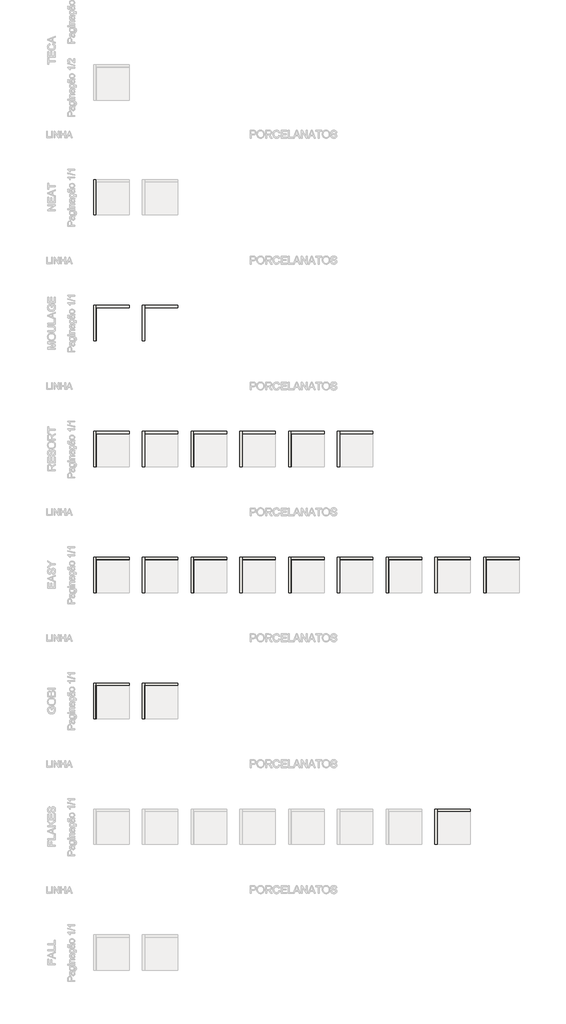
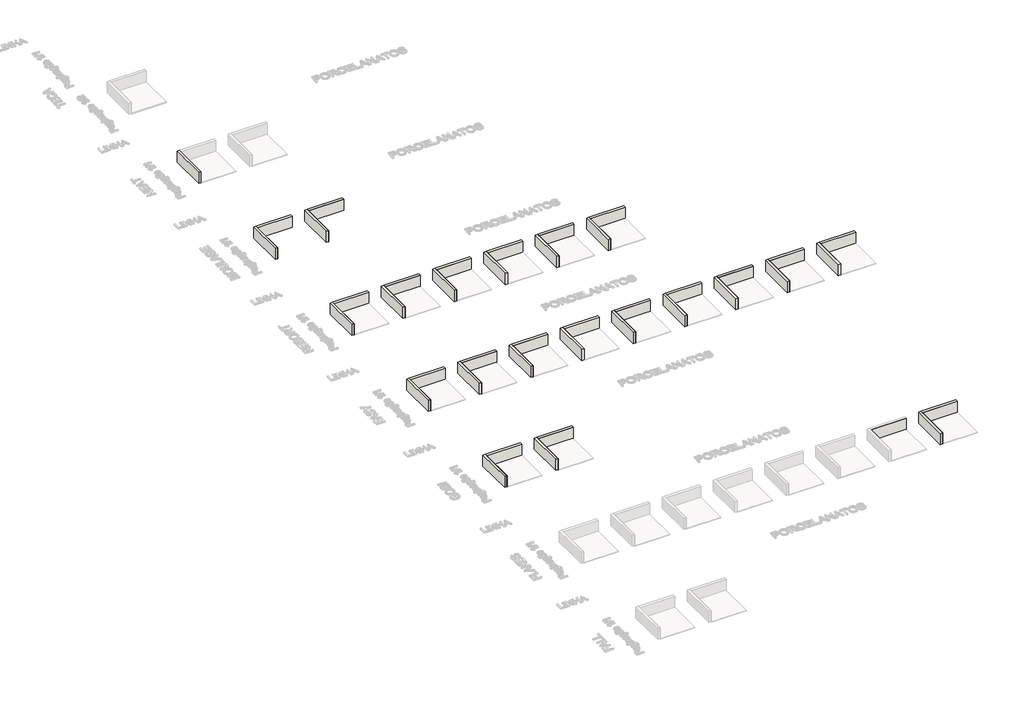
# One storey, part 2 of 17: 82 walls.
"""IFC4 building model written with IfcOpenShell, lengths in millimetres."""

from ifc_helpers import new_model, si_unit, origin, origin_with_axes, place, context, project, spatial, polyline, outline, extrude, faceted_brep, element, save

model = new_model("IFC4")

# Units and contexts
model_context = context("Model", 3, world=origin())
ifc_project = project(units=[si_unit("LENGTHUNIT", "METRE", prefix="MILLI")], contexts=[model_context])

# Site, building, storey
site = spatial("IfcSite", under=ifc_project)
building = spatial("IfcBuilding", under=site)
storey = spatial("IfcBuildingStorey", under=building, Name="Showroom (N.A.)", Elevation=0.0)

# Walls
placement = place(None, origin())
element("IfcWall", 1, ObjectType="Ceusa_Moulage_SBE_MLX_60x60_Pag-1/1", at=placement, inside=storey, context=model_context, shape_type="Brep", body=[
    faceted_brep([(-107054.0516826, -89478.6931337, 0.0), (-110054.0516826, -89478.6931337, 0.0), (-110054.0516826, -89478.6931337, 1000.0), (-107054.0516826, -89478.6931337, 1000.0), (-107054.0516826, -89494.1931337, 0.0), (-107054.0516826, -89494.1931337, 1000.0), (-110038.5516826, -89494.1931337, 1000.0), (-110054.0516826, -89494.1931337, 1000.0), (-110054.0516826, -89494.1931337, 0.0), (-110038.5516826, -89494.1931337, 0.0)], [[[0, 1, 2, 3]], [[4, 5, 6, 7, 8, 9]], [[1, 0, 4, 9, 8]], [[3, 2, 7, 6, 5]], [[0, 3, 5, 4]], [[2, 1, 8, 7]]]),
])
element("IfcWall", 2, ObjectType="Ceusa_Moulage_SBE_MLX_60x60_Pag-1/1", at=placement, inside=storey, context=model_context, shape_type="SweptSolid", body=[
    extrude(outline(polyline([(-110054.0516826, -92478.6931337), (-110054.0516826, -89494.1931337), (-110038.5516826, -89494.1931337), (-110038.5516826, -92478.6931337), (-110054.0516826, -92478.6931337)])), origin_with_axes(), (0.0, 0.0, 1.0), 1000.0),
])
element("IfcWall", 3, ObjectType="Ceusa_Moulage_BL_MLX_60x60_Pag-1/1", at=placement, inside=storey, context=model_context, shape_type="Brep", body=[
    faceted_brep([(-102654.0516826, -89478.6931337, 0.0), (-105654.0516826, -89478.6931337, 0.0), (-105654.0516826, -89478.6931337, 1000.0), (-102654.0516826, -89478.6931337, 1000.0), (-102654.0516826, -89494.1931337, 0.0), (-102654.0516826, -89494.1931337, 1000.0), (-105638.5516826, -89494.1931337, 1000.0), (-105654.0516826, -89494.1931337, 1000.0), (-105654.0516826, -89494.1931337, 0.0), (-105638.5516826, -89494.1931337, 0.0)], [[[0, 1, 2, 3]], [[4, 5, 6, 7, 8, 9]], [[1, 0, 4, 9, 8]], [[3, 2, 7, 6, 5]], [[0, 3, 5, 4]], [[2, 1, 8, 7]]]),
])
element("IfcWall", 4, ObjectType="Ceusa_Moulage_BL_MLX_60x60_Pag-1/1", at=placement, inside=storey, context=model_context, shape_type="SweptSolid", body=[
    extrude(outline(polyline([(-105654.0516826, -92478.6931337), (-105654.0516826, -89494.1931337), (-105638.5516826, -89494.1931337), (-105638.5516826, -92478.6931337), (-105654.0516826, -92478.6931337)])), origin_with_axes(), (0.0, 0.0, 1.0), 1000.0),
])
element("IfcWall", 5, ObjectType="Ceusa_Resort_BE_HARD_100x100_Pag-1/1", at=placement, inside=storey, context=model_context, shape_type="Brep", body=[
    faceted_brep([(-107054.0516826, -100842.0640125, 0.0), (-110054.0516826, -100842.0640125, 0.0), (-110054.0516826, -100842.0640125, 1000.0), (-107054.0516826, -100842.0640125, 1000.0), (-107054.0516826, -100856.0640125, 0.0), (-107054.0516826, -100856.0640125, 1000.0), (-110040.0516826, -100856.0640125, 1000.0), (-110054.0516826, -100856.0640125, 1000.0), (-110054.0516826, -100856.0640125, 0.0), (-110040.0516826, -100856.0640125, 0.0)], [[[0, 1, 2, 3]], [[4, 5, 6, 7, 8, 9]], [[1, 0, 4, 9, 8]], [[3, 2, 7, 6, 5]], [[0, 3, 5, 4]], [[2, 1, 8, 7]]]),
])
element("IfcWall", 6, ObjectType="Ceusa_Resort_BE_HARD_100x100_Pag-1/1", at=placement, inside=storey, context=model_context, shape_type="SweptSolid", body=[
    extrude(outline(polyline([(-110054.0516826, -103842.0640125), (-110054.0516826, -100856.0640125), (-110040.0516826, -100856.0640125), (-110040.0516826, -103842.0640125), (-110054.0516826, -103842.0640125)])), origin_with_axes(), (0.0, 0.0, 1.0), 1000.0),
])
element("IfcWall", 7, ObjectType="Ceusa_Resort_BE_NAT_100x100_Pag-1/1", at=placement, inside=storey, context=model_context, shape_type="Brep", body=[
    faceted_brep([(-102654.0516826, -100842.0640125, 0.0), (-105654.0516826, -100842.0640125, 0.0), (-105654.0516826, -100842.0640125, 1000.0), (-102654.0516826, -100842.0640125, 1000.0), (-102654.0516826, -100856.0640125, 0.0), (-102654.0516826, -100856.0640125, 1000.0), (-105640.0516826, -100856.0640125, 1000.0), (-105654.0516826, -100856.0640125, 1000.0), (-105654.0516826, -100856.0640125, 0.0), (-105640.0516826, -100856.0640125, 0.0)], [[[0, 1, 2, 3]], [[4, 5, 6, 7, 8, 9]], [[1, 0, 4, 9, 8]], [[3, 2, 7, 6, 5]], [[0, 3, 5, 4]], [[2, 1, 8, 7]]]),
])
element("IfcWall", 8, ObjectType="Ceusa_Resort_BE_NAT_100x100_Pag-1/1", at=placement, inside=storey, context=model_context, shape_type="SweptSolid", body=[
    extrude(outline(polyline([(-105654.0516826, -103842.0640125), (-105654.0516826, -100856.0640125), (-105640.0516826, -100856.0640125), (-105640.0516826, -103842.0640125), (-105654.0516826, -103842.0640125)])), origin_with_axes(), (0.0, 0.0, 1.0), 1000.0),
])
element("IfcWall", 9, ObjectType="Ceusa_Easy_MIX_NAT_10X10_Pag-1/1", at=placement, inside=storey, context=model_context, shape_type="Brep", body=[
    faceted_brep([(-107054.0516826, -112205.4348914, 0.0), (-110054.0516826, -112205.4348914, 0.0), (-110054.0516826, -112205.4348914, 1000.0), (-107054.0516826, -112205.4348914, 1000.0), (-107054.0516826, -112217.8348914, 0.0), (-107054.0516826, -112217.8348914, 1000.0), (-110041.6516826, -112217.8348914, 1000.0), (-110054.0516826, -112217.8348914, 1000.0), (-110054.0516826, -112217.8348914, 0.0), (-110041.6516826, -112217.8348914, 0.0)], [[[0, 1, 2, 3]], [[4, 5, 6, 7, 8, 9]], [[1, 0, 4, 9, 8]], [[3, 2, 7, 6, 5]], [[0, 3, 5, 4]], [[2, 1, 8, 7]]]),
])
element("IfcWall", 10, ObjectType="Ceusa_Easy_MIX_NAT_10X10_Pag-1/1", at=placement, inside=storey, context=model_context, shape_type="SweptSolid", body=[
    extrude(outline(polyline([(-110054.0516826, -115205.4348914), (-110054.0516826, -112217.8348914), (-110041.6516826, -112217.8348914), (-110041.6516826, -115205.4348914), (-110054.0516826, -115205.4348914)])), origin_with_axes(), (0.0, 0.0, 1.0), 1000.0),
])
element("IfcWall", 11, ObjectType="Ceusa_Easy_BL_NAT_10X10_Pag-1/1", at=placement, inside=storey, context=model_context, shape_type="Brep", body=[
    faceted_brep([(-102654.0516826, -112205.4348914, 0.0), (-105654.0516826, -112205.4348914, 0.0), (-105654.0516826, -112205.4348914, 1000.0), (-102654.0516826, -112205.4348914, 1000.0), (-102654.0516826, -112217.8348914, 0.0), (-102654.0516826, -112217.8348914, 1000.0), (-105641.6516826, -112217.8348914, 1000.0), (-105654.0516826, -112217.8348914, 1000.0), (-105654.0516826, -112217.8348914, 0.0), (-105641.6516826, -112217.8348914, 0.0)], [[[0, 1, 2, 3]], [[4, 5, 6, 7, 8, 9]], [[1, 0, 4, 9, 8]], [[3, 2, 7, 6, 5]], [[0, 3, 5, 4]], [[2, 1, 8, 7]]]),
])
element("IfcWall", 12, ObjectType="Ceusa_Easy_BL_NAT_10X10_Pag-1/1", at=placement, inside=storey, context=model_context, shape_type="SweptSolid", body=[
    extrude(outline(polyline([(-105654.0516826, -115205.4348914), (-105654.0516826, -112217.8348914), (-105641.6516826, -112217.8348914), (-105641.6516826, -115205.4348914), (-105654.0516826, -115205.4348914)])), origin_with_axes(), (0.0, 0.0, 1.0), 1000.0),
])
element("IfcWall", 13, ObjectType="Ceusa_Easy_CRL_NAT_10X10_Pag-1/1", at=placement, inside=storey, context=model_context, shape_type="Brep", body=[
    faceted_brep([(-98254.0516826, -112205.4348914, 0.0), (-101254.0516826, -112205.4348914, 0.0), (-101254.0516826, -112205.4348914, 1000.0), (-98254.0516826, -112205.4348914, 1000.0), (-98254.0516826, -112217.8348914, 0.0), (-98254.0516826, -112217.8348914, 1000.0), (-101241.6516826, -112217.8348914, 1000.0), (-101254.0516826, -112217.8348914, 1000.0), (-101254.0516826, -112217.8348914, 0.0), (-101241.6516826, -112217.8348914, 0.0)], [[[0, 1, 2, 3]], [[4, 5, 6, 7, 8, 9]], [[1, 0, 4, 9, 8]], [[3, 2, 7, 6, 5]], [[0, 3, 5, 4]], [[2, 1, 8, 7]]]),
])
element("IfcWall", 14, ObjectType="Ceusa_Easy_CRL_NAT_10X10_Pag-1/1", at=placement, inside=storey, context=model_context, shape_type="SweptSolid", body=[
    extrude(outline(polyline([(-101254.0516826, -115205.4348914), (-101254.0516826, -112217.8348914), (-101241.6516826, -112217.8348914), (-101241.6516826, -115205.4348914), (-101254.0516826, -115205.4348914)])), origin_with_axes(), (0.0, 0.0, 1.0), 1000.0),
])
element("IfcWall", 15, ObjectType="Ceusa_Easy_DGR_NAT_10X10_Pag-1/1", at=placement, inside=storey, context=model_context, shape_type="Brep", body=[
    faceted_brep([(-93854.0516826, -112205.4348914, 0.0), (-96854.0516826, -112205.4348914, 0.0), (-96854.0516826, -112205.4348914, 1000.0), (-93854.0516826, -112205.4348914, 1000.0), (-93854.0516826, -112217.8348914, 0.0), (-93854.0516826, -112217.8348914, 1000.0), (-96841.6516826, -112217.8348914, 1000.0), (-96854.0516826, -112217.8348914, 1000.0), (-96854.0516826, -112217.8348914, 0.0), (-96841.6516826, -112217.8348914, 0.0)], [[[0, 1, 2, 3]], [[4, 5, 6, 7, 8, 9]], [[1, 0, 4, 9, 8]], [[3, 2, 7, 6, 5]], [[0, 3, 5, 4]], [[2, 1, 8, 7]]]),
])
element("IfcWall", 16, ObjectType="Ceusa_Easy_DGR_NAT_10X10_Pag-1/1", at=placement, inside=storey, context=model_context, shape_type="SweptSolid", body=[
    extrude(outline(polyline([(-96854.0516826, -115205.4348914), (-96854.0516826, -112217.8348914), (-96841.6516826, -112217.8348914), (-96841.6516826, -115205.4348914), (-96854.0516826, -115205.4348914)])), origin_with_axes(), (0.0, 0.0, 1.0), 1000.0),
])
element("IfcWall", 17, ObjectType="Ceusa_Easy_DPR_NAT_10X10_Pag-1/1", at=placement, inside=storey, context=model_context, shape_type="Brep", body=[
    faceted_brep([(-89454.0516826, -112205.4348914, 0.0), (-92454.0516826, -112205.4348914, 0.0), (-92454.0516826, -112205.4348914, 1000.0), (-89454.0516826, -112205.4348914, 1000.0), (-89454.0516826, -112217.8348914, 0.0), (-89454.0516826, -112217.8348914, 1000.0), (-92441.6516826, -112217.8348914, 1000.0), (-92454.0516826, -112217.8348914, 1000.0), (-92454.0516826, -112217.8348914, 0.0), (-92441.6516826, -112217.8348914, 0.0)], [[[0, 1, 2, 3]], [[4, 5, 6, 7, 8, 9]], [[1, 0, 4, 9, 8]], [[3, 2, 7, 6, 5]], [[0, 3, 5, 4]], [[2, 1, 8, 7]]]),
])
element("IfcWall", 18, ObjectType="Ceusa_Easy_DPR_NAT_10X10_Pag-1/1", at=placement, inside=storey, context=model_context, shape_type="SweptSolid", body=[
    extrude(outline(polyline([(-92454.0516826, -115205.4348914), (-92454.0516826, -112217.8348914), (-92441.6516826, -112217.8348914), (-92441.6516826, -115205.4348914), (-92454.0516826, -115205.4348914)])), origin_with_axes(), (0.0, 0.0, 1.0), 1000.0),
])
element("IfcWall", 19, ObjectType="Ceusa_Easy_OFW_NAT_10X10_Pag-1/1", at=placement, inside=storey, context=model_context, shape_type="Brep", body=[
    faceted_brep([(-85054.0516826, -112205.4348914, 0.0), (-88054.0516826, -112205.4348914, 0.0), (-88054.0516826, -112205.4348914, 1000.0), (-85054.0516826, -112205.4348914, 1000.0), (-85054.0516826, -112217.8348914, 0.0), (-85054.0516826, -112217.8348914, 1000.0), (-88041.6516826, -112217.8348914, 1000.0), (-88054.0516826, -112217.8348914, 1000.0), (-88054.0516826, -112217.8348914, 0.0), (-88041.6516826, -112217.8348914, 0.0)], [[[0, 1, 2, 3]], [[4, 5, 6, 7, 8, 9]], [[1, 0, 4, 9, 8]], [[3, 2, 7, 6, 5]], [[0, 3, 5, 4]], [[2, 1, 8, 7]]]),
])
element("IfcWall", 20, ObjectType="Ceusa_Easy_OFW_NAT_10X10_Pag-1/1", at=placement, inside=storey, context=model_context, shape_type="SweptSolid", body=[
    extrude(outline(polyline([(-88054.0516826, -115205.4348914), (-88054.0516826, -112217.8348914), (-88041.6516826, -112217.8348914), (-88041.6516826, -115205.4348914), (-88054.0516826, -115205.4348914)])), origin_with_axes(), (0.0, 0.0, 1.0), 1000.0),
])
element("IfcWall", 21, ObjectType="Ceusa_Easy_RD_NAT_10X10_Pag-1/1", at=placement, inside=storey, context=model_context, shape_type="Brep", body=[
    faceted_brep([(-80654.0516826, -112205.4348914, 0.0), (-83654.0516826, -112205.4348914, 0.0), (-83654.0516826, -112205.4348914, 1000.0), (-80654.0516826, -112205.4348914, 1000.0), (-80654.0516826, -112217.8348914, 0.0), (-80654.0516826, -112217.8348914, 1000.0), (-83641.6516826, -112217.8348914, 1000.0), (-83654.0516826, -112217.8348914, 1000.0), (-83654.0516826, -112217.8348914, 0.0), (-83641.6516826, -112217.8348914, 0.0)], [[[0, 1, 2, 3]], [[4, 5, 6, 7, 8, 9]], [[1, 0, 4, 9, 8]], [[3, 2, 7, 6, 5]], [[0, 3, 5, 4]], [[2, 1, 8, 7]]]),
])
element("IfcWall", 22, ObjectType="Ceusa_Easy_RD_NAT_10X10_Pag-1/1", at=placement, inside=storey, context=model_context, shape_type="SweptSolid", body=[
    extrude(outline(polyline([(-83654.0516826, -115205.4348914), (-83654.0516826, -112217.8348914), (-83641.6516826, -112217.8348914), (-83641.6516826, -115205.4348914), (-83654.0516826, -115205.4348914)])), origin_with_axes(), (0.0, 0.0, 1.0), 1000.0),
])
element("IfcWall", 23, ObjectType="Ceusa_Easy_SBW_NAT_10X10_Pag-1/1", at=placement, inside=storey, context=model_context, shape_type="Brep", body=[
    faceted_brep([(-76254.0516826, -112205.4348914, 0.0), (-79254.0516826, -112205.4348914, 0.0), (-79254.0516826, -112205.4348914, 1000.0), (-76254.0516826, -112205.4348914, 1000.0), (-76254.0516826, -112217.8348914, 0.0), (-76254.0516826, -112217.8348914, 1000.0), (-79241.6516826, -112217.8348914, 1000.0), (-79254.0516826, -112217.8348914, 1000.0), (-79254.0516826, -112217.8348914, 0.0), (-79241.6516826, -112217.8348914, 0.0)], [[[0, 1, 2, 3]], [[4, 5, 6, 7, 8, 9]], [[1, 0, 4, 9, 8]], [[3, 2, 7, 6, 5]], [[0, 3, 5, 4]], [[2, 1, 8, 7]]]),
])
element("IfcWall", 24, ObjectType="Ceusa_Easy_SBW_NAT_10X10_Pag-1/1", at=placement, inside=storey, context=model_context, shape_type="SweptSolid", body=[
    extrude(outline(polyline([(-79254.0516826, -115205.4348914), (-79254.0516826, -112217.8348914), (-79241.6516826, -112217.8348914), (-79241.6516826, -115205.4348914), (-79254.0516826, -115205.4348914)])), origin_with_axes(), (0.0, 0.0, 1.0), 1000.0),
])
element("IfcWall", 25, ObjectType="Ceusa_Easy_SGN_NAT_10X10_Pag-1/1", at=placement, inside=storey, context=model_context, shape_type="Brep", body=[
    faceted_brep([(-71854.0516826, -112205.4348914, 0.0), (-74854.0516826, -112205.4348914, 0.0), (-74854.0516826, -112205.4348914, 1000.0), (-71854.0516826, -112205.4348914, 1000.0), (-71854.0516826, -112217.8348914, 0.0), (-71854.0516826, -112217.8348914, 1000.0), (-74841.6516826, -112217.8348914, 1000.0), (-74854.0516826, -112217.8348914, 1000.0), (-74854.0516826, -112217.8348914, 0.0), (-74841.6516826, -112217.8348914, 0.0)], [[[0, 1, 2, 3]], [[4, 5, 6, 7, 8, 9]], [[1, 0, 4, 9, 8]], [[3, 2, 7, 6, 5]], [[0, 3, 5, 4]], [[2, 1, 8, 7]]]),
])
element("IfcWall", 26, ObjectType="Ceusa_Easy_SGN_NAT_10X10_Pag-1/1", at=placement, inside=storey, context=model_context, shape_type="SweptSolid", body=[
    extrude(outline(polyline([(-74854.0516826, -115205.4348914), (-74854.0516826, -112217.8348914), (-74841.6516826, -112217.8348914), (-74841.6516826, -115205.4348914), (-74854.0516826, -115205.4348914)])), origin_with_axes(), (0.0, 0.0, 1.0), 1000.0),
])
element("IfcWall", 27, ObjectType="Ceusa_Gobi_BE_NAT_120X120_Pag-1/1", at=placement, inside=storey, context=model_context, shape_type="Brep", body=[
    faceted_brep([(-107054.0516826, -123568.8057702, 0.0), (-110054.0516826, -123568.8057702, 0.0), (-110054.0516826, -123568.8057702, 1000.0), (-107054.0516826, -123568.8057702, 1000.0), (-107054.0516826, -123583.0057702, 0.0), (-107054.0516826, -123583.0057702, 1000.0), (-110039.8516826, -123583.0057702, 1000.0), (-110054.0516826, -123583.0057702, 1000.0), (-110054.0516826, -123583.0057702, 0.0), (-110039.8516826, -123583.0057702, 0.0)], [[[0, 1, 2, 3]], [[4, 5, 6, 7, 8, 9]], [[1, 0, 4, 9, 8]], [[3, 2, 7, 6, 5]], [[0, 3, 5, 4]], [[2, 1, 8, 7]]]),
])
element("IfcWall", 28, ObjectType="Ceusa_Gobi_BE_NAT_120X120_Pag-1/1", at=placement, inside=storey, context=model_context, shape_type="SweptSolid", body=[
    extrude(outline(polyline([(-110054.0516826, -126568.8057702), (-110054.0516826, -123583.0057702), (-110039.8516826, -123583.0057702), (-110039.8516826, -126568.8057702), (-110054.0516826, -126568.8057702)])), origin_with_axes(), (0.0, 0.0, 1.0), 1000.0),
])
element("IfcWall", 29, ObjectType="Ceusa_Gobi_BE_HARD_120X120_Pag-1/1", at=placement, inside=storey, context=model_context, shape_type="Brep", body=[
    faceted_brep([(-102654.0516826, -123568.8057702, 0.0), (-105654.0516826, -123568.8057702, 0.0), (-105654.0516826, -123568.8057702, 1000.0), (-102654.0516826, -123568.8057702, 1000.0), (-102654.0516826, -123583.0057702, 0.0), (-102654.0516826, -123583.0057702, 1000.0), (-105639.8516826, -123583.0057702, 1000.0), (-105654.0516826, -123583.0057702, 1000.0), (-105654.0516826, -123583.0057702, 0.0), (-105639.8516826, -123583.0057702, 0.0)], [[[0, 1, 2, 3]], [[4, 5, 6, 7, 8, 9]], [[1, 0, 4, 9, 8]], [[3, 2, 7, 6, 5]], [[0, 3, 5, 4]], [[2, 1, 8, 7]]]),
])
element("IfcWall", 30, ObjectType="Ceusa_Gobi_BE_HARD_120X120_Pag-1/1", at=placement, inside=storey, context=model_context, shape_type="SweptSolid", body=[
    extrude(outline(polyline([(-105654.0516826, -126568.8057702), (-105654.0516826, -123583.0057702), (-105639.8516826, -123583.0057702), (-105639.8516826, -126568.8057702), (-105654.0516826, -126568.8057702)])), origin_with_axes(), (0.0, 0.0, 1.0), 1000.0),
])
element("IfcWall", 31, ObjectType="Ceusa_Flake_BE_HARD_120X120_Pag-1/1", at=placement, inside=storey, context=model_context, shape_type="Brep", body=[
    faceted_brep([(-80654.0516826, -134932.1766491, 0.0), (-83654.0516826, -134932.1766491, 0.0), (-83654.0516826, -134932.1766491, 1000.0), (-80654.0516826, -134932.1766491, 1000.0), (-80654.0516826, -134946.3766491, 0.0), (-80654.0516826, -134946.3766491, 1000.0), (-83639.8516826, -134946.3766491, 1000.0), (-83654.0516826, -134946.3766491, 1000.0), (-83654.0516826, -134946.3766491, 0.0), (-83639.8516826, -134946.3766491, 0.0)], [[[0, 1, 2, 3]], [[4, 5, 6, 7, 8, 9]], [[1, 0, 4, 9, 8]], [[3, 2, 7, 6, 5]], [[0, 3, 5, 4]], [[2, 1, 8, 7]]]),
])
element("IfcWall", 32, ObjectType="Ceusa_Flake_GR_HARD_120X120_Pag-1/1", at=placement, inside=storey, context=model_context, shape_type="Brep", body=[
    faceted_brep([(-76254.0516826, -134932.1766491, 0.0), (-79254.0516826, -134932.1766491, 0.0), (-79254.0516826, -134932.1766491, 1000.0), (-76254.0516826, -134932.1766491, 1000.0), (-76254.0516826, -134946.3766491, 0.0), (-76254.0516826, -134946.3766491, 1000.0), (-79239.8516826, -134946.3766491, 1000.0), (-79254.0516826, -134946.3766491, 1000.0), (-79254.0516826, -134946.3766491, 0.0), (-79239.8516826, -134946.3766491, 0.0)], [[[0, 1, 2, 3]], [[4, 5, 6, 7, 8, 9]], [[1, 0, 4, 9, 8]], [[3, 2, 7, 6, 5]], [[0, 3, 5, 4]], [[2, 1, 8, 7]]]),
])
element("IfcWall", 33, ObjectType="Ceusa_Flake_GR_HARD_120X120_Pag-1/1", at=placement, inside=storey, context=model_context, shape_type="SweptSolid", body=[
    extrude(outline(polyline([(-79254.0516826, -137932.1766491), (-79254.0516826, -134946.3766491), (-79239.8516826, -134946.3766491), (-79239.8516826, -137932.1766491), (-79254.0516826, -137932.1766491)])), origin_with_axes(), (0.0, 0.0, 1.0), 1000.0),
])
element("IfcWall", 34, ObjectType="Ceusa_Resort_BE_HARD_20x20_Pag-1/1", at=placement, inside=storey, context=model_context, shape_type="Brep", body=[
    faceted_brep([(-98254.0516826, -100842.0640125, 0.0), (-101254.0516826, -100842.0640125, 0.0), (-101254.0516826, -100842.0640125, 1000.0), (-98254.0516826, -100842.0640125, 1000.0), (-98254.0516826, -100854.4640125, 0.0), (-98254.0516826, -100854.4640125, 1000.0), (-101241.6516826, -100854.4640125, 1000.0), (-101254.0516826, -100854.4640125, 1000.0), (-101254.0516826, -100854.4640125, 0.0), (-101241.6516826, -100854.4640125, 0.0)], [[[0, 1, 2, 3]], [[4, 5, 6, 7, 8, 9]], [[1, 0, 4, 9, 8]], [[3, 2, 7, 6, 5]], [[0, 3, 5, 4]], [[2, 1, 8, 7]]]),
])
element("IfcWall", 35, ObjectType="Ceusa_Resort_BE_HARD_20x20_Pag-1/1", at=placement, inside=storey, context=model_context, shape_type="SweptSolid", body=[
    extrude(outline(polyline([(-101254.0516826, -103842.0640125), (-101254.0516826, -100854.4640125), (-101241.6516826, -100854.4640125), (-101241.6516826, -103842.0640125), (-101254.0516826, -103842.0640125)])), origin_with_axes(), (0.0, 0.0, 1.0), 1000.0),
])
element("IfcWall", 36, ObjectType="Ceusa_Resort_BE_NAT_20x20_Pag-1/1", at=placement, inside=storey, context=model_context, shape_type="Brep", body=[
    faceted_brep([(-93854.0516826, -100842.0640125, 0.0), (-96854.0516826, -100842.0640125, 0.0), (-96854.0516826, -100842.0640125, 1000.0), (-93854.0516826, -100842.0640125, 1000.0), (-93854.0516826, -100854.4640125, 0.0), (-93854.0516826, -100854.4640125, 1000.0), (-96841.6516826, -100854.4640125, 1000.0), (-96854.0516826, -100854.4640125, 1000.0), (-96854.0516826, -100854.4640125, 0.0), (-96841.6516826, -100854.4640125, 0.0)], [[[0, 1, 2, 3]], [[4, 5, 6, 7, 8, 9]], [[1, 0, 4, 9, 8]], [[3, 2, 7, 6, 5]], [[0, 3, 5, 4]], [[2, 1, 8, 7]]]),
])
element("IfcWall", 37, ObjectType="Ceusa_Resort_BE_NAT_20x20_Pag-1/1", at=placement, inside=storey, context=model_context, shape_type="SweptSolid", body=[
    extrude(outline(polyline([(-96854.0516826, -103842.0640125), (-96854.0516826, -100854.4640125), (-96841.6516826, -100854.4640125), (-96841.6516826, -103842.0640125), (-96854.0516826, -103842.0640125)])), origin_with_axes(), (0.0, 0.0, 1.0), 1000.0),
])
element("IfcWall", 38, ObjectType="Ceusa_Resort_BL_HARD_20x20_Pag-1/1", at=placement, inside=storey, context=model_context, shape_type="Brep", body=[
    faceted_brep([(-89454.0516826, -100842.0640125, 0.0), (-92454.0516826, -100842.0640125, 0.0), (-92454.0516826, -100842.0640125, 1000.0), (-89454.0516826, -100842.0640125, 1000.0), (-89454.0516826, -100854.4640125, 0.0), (-89454.0516826, -100854.4640125, 1000.0), (-92441.6516826, -100854.4640125, 1000.0), (-92454.0516826, -100854.4640125, 1000.0), (-92454.0516826, -100854.4640125, 0.0), (-92441.6516826, -100854.4640125, 0.0)], [[[0, 1, 2, 3]], [[4, 5, 6, 7, 8, 9]], [[1, 0, 4, 9, 8]], [[3, 2, 7, 6, 5]], [[0, 3, 5, 4]], [[2, 1, 8, 7]]]),
])
element("IfcWall", 39, ObjectType="Ceusa_Resort_BL_HARD_20x20_Pag-1/1", at=placement, inside=storey, context=model_context, shape_type="SweptSolid", body=[
    extrude(outline(polyline([(-92454.0516826, -103842.0640125), (-92454.0516826, -100854.4640125), (-92441.6516826, -100854.4640125), (-92441.6516826, -103842.0640125), (-92454.0516826, -103842.0640125)])), origin_with_axes(), (0.0, 0.0, 1.0), 1000.0),
])
element("IfcWall", 40, ObjectType="Ceusa_Resort_BL_LUX_20x20_Pag-1/1", at=placement, inside=storey, context=model_context, shape_type="Brep", body=[
    faceted_brep([(-85054.0516826, -100842.0640125, 0.0), (-88054.0516826, -100842.0640125, 0.0), (-88054.0516826, -100842.0640125, 1000.0), (-85054.0516826, -100842.0640125, 1000.0), (-85054.0516826, -100854.4640125, 0.0), (-85054.0516826, -100854.4640125, 1000.0), (-88041.6516826, -100854.4640125, 1000.0), (-88054.0516826, -100854.4640125, 1000.0), (-88054.0516826, -100854.4640125, 0.0), (-88041.6516826, -100854.4640125, 0.0)], [[[0, 1, 2, 3]], [[4, 5, 6, 7, 8, 9]], [[1, 0, 4, 9, 8]], [[3, 2, 7, 6, 5]], [[0, 3, 5, 4]], [[2, 1, 8, 7]]]),
])
element("IfcWall", 41, ObjectType="Ceusa_Resort_BL_LUX_20x20_Pag-1/1", at=placement, inside=storey, context=model_context, shape_type="SweptSolid", body=[
    extrude(outline(polyline([(-88054.0516826, -103842.0640125), (-88054.0516826, -100854.4640125), (-88041.6516826, -100854.4640125), (-88041.6516826, -103842.0640125), (-88054.0516826, -103842.0640125)])), origin_with_axes(), (0.0, 0.0, 1.0), 1000.0),
])
element("IfcWall", 42, ObjectType="Wall 1", at=placement, inside=storey, context=model_context, shape_type="Brep", body=[
    faceted_brep([(-110054.0516826, -81115.3222548, 0.0), (-110054.0516826, -78115.3222548, 0.0), (-110054.0516826, -77915.3222548, 0.0), (-110054.0516826, -77915.3222548, 1000.0), (-110054.0516826, -78115.3222548, 1000.0), (-110054.0516826, -81115.3222548, 1000.0), (-110254.0516826, -81115.3222548, 0.0), (-110254.0516826, -81115.3222548, 1000.0), (-110254.0516826, -77915.3222548, 1000.0), (-110254.0516826, -77915.3222548, 0.0)], [[[0, 1, 2, 3, 4, 5]], [[6, 7, 8, 9]], [[2, 1, 0, 6, 9]], [[5, 4, 3, 8, 7]], [[0, 5, 7, 6]], [[3, 2, 9, 8]]]),
])
element("IfcWall", 43, ObjectType="Wall 1", at=placement, inside=storey, context=model_context, shape_type="Brep", body=[
    faceted_brep([(-110054.0516826, -92478.6931337, 0.0), (-110054.0516826, -89478.6931337, 0.0), (-110054.0516826, -89278.6931337, 0.0), (-110054.0516826, -89278.6931337, 1000.0), (-110054.0516826, -89478.6931337, 1000.0), (-110054.0516826, -92478.6931337, 1000.0), (-110254.0516826, -92478.6931337, 0.0), (-110254.0516826, -92478.6931337, 1000.0), (-110254.0516826, -89278.6931337, 1000.0), (-110254.0516826, -89278.6931337, 0.0)], [[[0, 1, 2, 3, 4, 5]], [[6, 7, 8, 9]], [[2, 1, 0, 6, 9]], [[5, 4, 3, 8, 7]], [[0, 5, 7, 6]], [[3, 2, 9, 8]]]),
])
element("IfcWall", 44, ObjectType="Wall 1", at=placement, inside=storey, context=model_context, shape_type="SweptSolid", body=[
    extrude(outline(polyline([(-107054.0516826, -89478.6931337), (-110054.0516826, -89478.6931337), (-110054.0516826, -89278.6931337), (-107054.0516826, -89278.6931337), (-107054.0516826, -89478.6931337)])), origin_with_axes(), (0.0, 0.0, 1.0), 1000.0),
])
element("IfcWall", 45, ObjectType="Wall 1", at=placement, inside=storey, context=model_context, shape_type="Brep", body=[
    faceted_brep([(-105654.0516826, -92478.6931337, 0.0), (-105654.0516826, -89478.6931337, 0.0), (-105654.0516826, -89278.6931337, 0.0), (-105654.0516826, -89278.6931337, 1000.0), (-105654.0516826, -89478.6931337, 1000.0), (-105654.0516826, -92478.6931337, 1000.0), (-105854.0516826, -92478.6931337, 0.0), (-105854.0516826, -92478.6931337, 1000.0), (-105854.0516826, -89278.6931337, 1000.0), (-105854.0516826, -89278.6931337, 0.0)], [[[0, 1, 2, 3, 4, 5]], [[6, 7, 8, 9]], [[2, 1, 0, 6, 9]], [[5, 4, 3, 8, 7]], [[0, 5, 7, 6]], [[3, 2, 9, 8]]]),
])
element("IfcWall", 46, ObjectType="Wall 1", at=placement, inside=storey, context=model_context, shape_type="SweptSolid", body=[
    extrude(outline(polyline([(-102654.0516826, -89478.6931337), (-105654.0516826, -89478.6931337), (-105654.0516826, -89278.6931337), (-102654.0516826, -89278.6931337), (-102654.0516826, -89478.6931337)])), origin_with_axes(), (0.0, 0.0, 1.0), 1000.0),
])
element("IfcWall", 47, ObjectType="Wall 1", at=placement, inside=storey, context=model_context, shape_type="Brep", body=[
    faceted_brep([(-110054.0516826, -103842.0640125, 0.0), (-110054.0516826, -100842.0640125, 0.0), (-110054.0516826, -100642.0640125, 0.0), (-110054.0516826, -100642.0640125, 1000.0), (-110054.0516826, -100842.0640125, 1000.0), (-110054.0516826, -103842.0640125, 1000.0), (-110254.0516826, -103842.0640125, 0.0), (-110254.0516826, -103842.0640125, 1000.0), (-110254.0516826, -100642.0640125, 1000.0), (-110254.0516826, -100642.0640125, 0.0)], [[[0, 1, 2, 3, 4, 5]], [[6, 7, 8, 9]], [[2, 1, 0, 6, 9]], [[5, 4, 3, 8, 7]], [[0, 5, 7, 6]], [[3, 2, 9, 8]]]),
])
element("IfcWall", 48, ObjectType="Wall 1", at=placement, inside=storey, context=model_context, shape_type="SweptSolid", body=[
    extrude(outline(polyline([(-107054.0516826, -100842.0640125), (-110054.0516826, -100842.0640125), (-110054.0516826, -100642.0640125), (-107054.0516826, -100642.0640125), (-107054.0516826, -100842.0640125)])), origin_with_axes(), (0.0, 0.0, 1.0), 1000.0),
])
element("IfcWall", 49, ObjectType="Wall 1", at=placement, inside=storey, context=model_context, shape_type="Brep", body=[
    faceted_brep([(-105654.0516826, -103842.0640125, 0.0), (-105654.0516826, -100842.0640125, 0.0), (-105654.0516826, -100642.0640125, 0.0), (-105654.0516826, -100642.0640125, 1000.0), (-105654.0516826, -100842.0640125, 1000.0), (-105654.0516826, -103842.0640125, 1000.0), (-105854.0516826, -103842.0640125, 0.0), (-105854.0516826, -103842.0640125, 1000.0), (-105854.0516826, -100642.0640125, 1000.0), (-105854.0516826, -100642.0640125, 0.0)], [[[0, 1, 2, 3, 4, 5]], [[6, 7, 8, 9]], [[2, 1, 0, 6, 9]], [[5, 4, 3, 8, 7]], [[0, 5, 7, 6]], [[3, 2, 9, 8]]]),
])
element("IfcWall", 50, ObjectType="Wall 1", at=placement, inside=storey, context=model_context, shape_type="SweptSolid", body=[
    extrude(outline(polyline([(-102654.0516826, -100842.0640125), (-105654.0516826, -100842.0640125), (-105654.0516826, -100642.0640125), (-102654.0516826, -100642.0640125), (-102654.0516826, -100842.0640125)])), origin_with_axes(), (0.0, 0.0, 1.0), 1000.0),
])
element("IfcWall", 51, ObjectType="Wall 1", at=placement, inside=storey, context=model_context, shape_type="Brep", body=[
    faceted_brep([(-110054.0516826, -115205.4348914, 0.0), (-110054.0516826, -112205.4348914, 0.0), (-110054.0516826, -112005.4348914, 0.0), (-110054.0516826, -112005.4348914, 1000.0), (-110054.0516826, -112205.4348914, 1000.0), (-110054.0516826, -115205.4348914, 1000.0), (-110254.0516826, -115205.4348914, 0.0), (-110254.0516826, -115205.4348914, 1000.0), (-110254.0516826, -112005.4348914, 1000.0), (-110254.0516826, -112005.4348914, 0.0)], [[[0, 1, 2, 3, 4, 5]], [[6, 7, 8, 9]], [[2, 1, 0, 6, 9]], [[5, 4, 3, 8, 7]], [[0, 5, 7, 6]], [[3, 2, 9, 8]]]),
])
element("IfcWall", 52, ObjectType="Wall 1", at=placement, inside=storey, context=model_context, shape_type="SweptSolid", body=[
    extrude(outline(polyline([(-107054.0516826, -112205.4348914), (-110054.0516826, -112205.4348914), (-110054.0516826, -112005.4348914), (-107054.0516826, -112005.4348914), (-107054.0516826, -112205.4348914)])), origin_with_axes(), (0.0, 0.0, 1.0), 1000.0),
])
element("IfcWall", 53, ObjectType="Wall 1", at=placement, inside=storey, context=model_context, shape_type="Brep", body=[
    faceted_brep([(-105654.0516826, -115205.4348914, 0.0), (-105654.0516826, -112205.4348914, 0.0), (-105654.0516826, -112005.4348914, 0.0), (-105654.0516826, -112005.4348914, 1000.0), (-105654.0516826, -112205.4348914, 1000.0), (-105654.0516826, -115205.4348914, 1000.0), (-105854.0516826, -115205.4348914, 0.0), (-105854.0516826, -115205.4348914, 1000.0), (-105854.0516826, -112005.4348914, 1000.0), (-105854.0516826, -112005.4348914, 0.0)], [[[0, 1, 2, 3, 4, 5]], [[6, 7, 8, 9]], [[2, 1, 0, 6, 9]], [[5, 4, 3, 8, 7]], [[0, 5, 7, 6]], [[3, 2, 9, 8]]]),
])
element("IfcWall", 54, ObjectType="Wall 1", at=placement, inside=storey, context=model_context, shape_type="SweptSolid", body=[
    extrude(outline(polyline([(-102654.0516826, -112205.4348914), (-105654.0516826, -112205.4348914), (-105654.0516826, -112005.4348914), (-102654.0516826, -112005.4348914), (-102654.0516826, -112205.4348914)])), origin_with_axes(), (0.0, 0.0, 1.0), 1000.0),
])
element("IfcWall", 55, ObjectType="Wall 1", at=placement, inside=storey, context=model_context, shape_type="Brep", body=[
    faceted_brep([(-101254.0516826, -115205.4348914, 0.0), (-101254.0516826, -112205.4348914, 0.0), (-101254.0516826, -112005.4348914, 0.0), (-101254.0516826, -112005.4348914, 1000.0), (-101254.0516826, -112205.4348914, 1000.0), (-101254.0516826, -115205.4348914, 1000.0), (-101454.0516826, -115205.4348914, 0.0), (-101454.0516826, -115205.4348914, 1000.0), (-101454.0516826, -112005.4348914, 1000.0), (-101454.0516826, -112005.4348914, 0.0)], [[[0, 1, 2, 3, 4, 5]], [[6, 7, 8, 9]], [[2, 1, 0, 6, 9]], [[5, 4, 3, 8, 7]], [[0, 5, 7, 6]], [[3, 2, 9, 8]]]),
])
element("IfcWall", 56, ObjectType="Wall 1", at=placement, inside=storey, context=model_context, shape_type="SweptSolid", body=[
    extrude(outline(polyline([(-98254.0516826, -112205.4348914), (-101254.0516826, -112205.4348914), (-101254.0516826, -112005.4348914), (-98254.0516826, -112005.4348914), (-98254.0516826, -112205.4348914)])), origin_with_axes(), (0.0, 0.0, 1.0), 1000.0),
])
element("IfcWall", 57, ObjectType="Wall 1", at=placement, inside=storey, context=model_context, shape_type="Brep", body=[
    faceted_brep([(-96854.0516826, -115205.4348914, 0.0), (-96854.0516826, -112205.4348914, 0.0), (-96854.0516826, -112005.4348914, 0.0), (-96854.0516826, -112005.4348914, 1000.0), (-96854.0516826, -112205.4348914, 1000.0), (-96854.0516826, -115205.4348914, 1000.0), (-97054.0516826, -115205.4348914, 0.0), (-97054.0516826, -115205.4348914, 1000.0), (-97054.0516826, -112005.4348914, 1000.0), (-97054.0516826, -112005.4348914, 0.0)], [[[0, 1, 2, 3, 4, 5]], [[6, 7, 8, 9]], [[2, 1, 0, 6, 9]], [[5, 4, 3, 8, 7]], [[0, 5, 7, 6]], [[3, 2, 9, 8]]]),
])
element("IfcWall", 58, ObjectType="Wall 1", at=placement, inside=storey, context=model_context, shape_type="SweptSolid", body=[
    extrude(outline(polyline([(-93854.0516826, -112205.4348914), (-96854.0516826, -112205.4348914), (-96854.0516826, -112005.4348914), (-93854.0516826, -112005.4348914), (-93854.0516826, -112205.4348914)])), origin_with_axes(), (0.0, 0.0, 1.0), 1000.0),
])
element("IfcWall", 59, ObjectType="Wall 1", at=placement, inside=storey, context=model_context, shape_type="Brep", body=[
    faceted_brep([(-92454.0516826, -115205.4348914, 0.0), (-92454.0516826, -112205.4348914, 0.0), (-92454.0516826, -112005.4348914, 0.0), (-92454.0516826, -112005.4348914, 1000.0), (-92454.0516826, -112205.4348914, 1000.0), (-92454.0516826, -115205.4348914, 1000.0), (-92654.0516826, -115205.4348914, 0.0), (-92654.0516826, -115205.4348914, 1000.0), (-92654.0516826, -112005.4348914, 1000.0), (-92654.0516826, -112005.4348914, 0.0)], [[[0, 1, 2, 3, 4, 5]], [[6, 7, 8, 9]], [[2, 1, 0, 6, 9]], [[5, 4, 3, 8, 7]], [[0, 5, 7, 6]], [[3, 2, 9, 8]]]),
])
element("IfcWall", 60, ObjectType="Wall 1", at=placement, inside=storey, context=model_context, shape_type="SweptSolid", body=[
    extrude(outline(polyline([(-89454.0516826, -112205.4348914), (-92454.0516826, -112205.4348914), (-92454.0516826, -112005.4348914), (-89454.0516826, -112005.4348914), (-89454.0516826, -112205.4348914)])), origin_with_axes(), (0.0, 0.0, 1.0), 1000.0),
])
element("IfcWall", 61, ObjectType="Wall 1", at=placement, inside=storey, context=model_context, shape_type="Brep", body=[
    faceted_brep([(-88054.0516826, -115205.4348914, 0.0), (-88054.0516826, -112205.4348914, 0.0), (-88054.0516826, -112005.4348914, 0.0), (-88054.0516826, -112005.4348914, 1000.0), (-88054.0516826, -112205.4348914, 1000.0), (-88054.0516826, -115205.4348914, 1000.0), (-88254.0516826, -115205.4348914, 0.0), (-88254.0516826, -115205.4348914, 1000.0), (-88254.0516826, -112005.4348914, 1000.0), (-88254.0516826, -112005.4348914, 0.0)], [[[0, 1, 2, 3, 4, 5]], [[6, 7, 8, 9]], [[2, 1, 0, 6, 9]], [[5, 4, 3, 8, 7]], [[0, 5, 7, 6]], [[3, 2, 9, 8]]]),
])
element("IfcWall", 62, ObjectType="Wall 1", at=placement, inside=storey, context=model_context, shape_type="SweptSolid", body=[
    extrude(outline(polyline([(-85054.0516826, -112205.4348914), (-88054.0516826, -112205.4348914), (-88054.0516826, -112005.4348914), (-85054.0516826, -112005.4348914), (-85054.0516826, -112205.4348914)])), origin_with_axes(), (0.0, 0.0, 1.0), 1000.0),
])
element("IfcWall", 63, ObjectType="Wall 1", at=placement, inside=storey, context=model_context, shape_type="Brep", body=[
    faceted_brep([(-83654.0516826, -115205.4348914, 0.0), (-83654.0516826, -112205.4348914, 0.0), (-83654.0516826, -112005.4348914, 0.0), (-83654.0516826, -112005.4348914, 1000.0), (-83654.0516826, -112205.4348914, 1000.0), (-83654.0516826, -115205.4348914, 1000.0), (-83854.0516826, -115205.4348914, 0.0), (-83854.0516826, -115205.4348914, 1000.0), (-83854.0516826, -112005.4348914, 1000.0), (-83854.0516826, -112005.4348914, 0.0)], [[[0, 1, 2, 3, 4, 5]], [[6, 7, 8, 9]], [[2, 1, 0, 6, 9]], [[5, 4, 3, 8, 7]], [[0, 5, 7, 6]], [[3, 2, 9, 8]]]),
])
element("IfcWall", 64, ObjectType="Wall 1", at=placement, inside=storey, context=model_context, shape_type="SweptSolid", body=[
    extrude(outline(polyline([(-80654.0516826, -112205.4348914), (-83654.0516826, -112205.4348914), (-83654.0516826, -112005.4348914), (-80654.0516826, -112005.4348914), (-80654.0516826, -112205.4348914)])), origin_with_axes(), (0.0, 0.0, 1.0), 1000.0),
])
element("IfcWall", 65, ObjectType="Wall 1", at=placement, inside=storey, context=model_context, shape_type="Brep", body=[
    faceted_brep([(-79254.0516826, -115205.4348914, 0.0), (-79254.0516826, -112205.4348914, 0.0), (-79254.0516826, -112005.4348914, 0.0), (-79254.0516826, -112005.4348914, 1000.0), (-79254.0516826, -112205.4348914, 1000.0), (-79254.0516826, -115205.4348914, 1000.0), (-79454.0516826, -115205.4348914, 0.0), (-79454.0516826, -115205.4348914, 1000.0), (-79454.0516826, -112005.4348914, 1000.0), (-79454.0516826, -112005.4348914, 0.0)], [[[0, 1, 2, 3, 4, 5]], [[6, 7, 8, 9]], [[2, 1, 0, 6, 9]], [[5, 4, 3, 8, 7]], [[0, 5, 7, 6]], [[3, 2, 9, 8]]]),
])
element("IfcWall", 66, ObjectType="Wall 1", at=placement, inside=storey, context=model_context, shape_type="SweptSolid", body=[
    extrude(outline(polyline([(-76254.0516826, -112205.4348914), (-79254.0516826, -112205.4348914), (-79254.0516826, -112005.4348914), (-76254.0516826, -112005.4348914), (-76254.0516826, -112205.4348914)])), origin_with_axes(), (0.0, 0.0, 1.0), 1000.0),
])
element("IfcWall", 67, ObjectType="Wall 1", at=placement, inside=storey, context=model_context, shape_type="Brep", body=[
    faceted_brep([(-74854.0516826, -115205.4348914, 0.0), (-74854.0516826, -112205.4348914, 0.0), (-74854.0516826, -112005.4348914, 0.0), (-74854.0516826, -112005.4348914, 1000.0), (-74854.0516826, -112205.4348914, 1000.0), (-74854.0516826, -115205.4348914, 1000.0), (-75054.0516826, -115205.4348914, 0.0), (-75054.0516826, -115205.4348914, 1000.0), (-75054.0516826, -112005.4348914, 1000.0), (-75054.0516826, -112005.4348914, 0.0)], [[[0, 1, 2, 3, 4, 5]], [[6, 7, 8, 9]], [[2, 1, 0, 6, 9]], [[5, 4, 3, 8, 7]], [[0, 5, 7, 6]], [[3, 2, 9, 8]]]),
])
element("IfcWall", 68, ObjectType="Wall 1", at=placement, inside=storey, context=model_context, shape_type="SweptSolid", body=[
    extrude(outline(polyline([(-71854.0516826, -112205.4348914), (-74854.0516826, -112205.4348914), (-74854.0516826, -112005.4348914), (-71854.0516826, -112005.4348914), (-71854.0516826, -112205.4348914)])), origin_with_axes(), (0.0, 0.0, 1.0), 1000.0),
])
element("IfcWall", 69, ObjectType="Wall 1", at=placement, inside=storey, context=model_context, shape_type="Brep", body=[
    faceted_brep([(-110054.0516826, -126568.8057702, 0.0), (-110054.0516826, -123568.8057702, 0.0), (-110054.0516826, -123368.8057702, 0.0), (-110054.0516826, -123368.8057702, 1000.0), (-110054.0516826, -123568.8057702, 1000.0), (-110054.0516826, -126568.8057702, 1000.0), (-110254.0516826, -126568.8057702, 0.0), (-110254.0516826, -126568.8057702, 1000.0), (-110254.0516826, -123368.8057702, 1000.0), (-110254.0516826, -123368.8057702, 0.0)], [[[0, 1, 2, 3, 4, 5]], [[6, 7, 8, 9]], [[2, 1, 0, 6, 9]], [[5, 4, 3, 8, 7]], [[0, 5, 7, 6]], [[3, 2, 9, 8]]]),
])
element("IfcWall", 70, ObjectType="Wall 1", at=placement, inside=storey, context=model_context, shape_type="SweptSolid", body=[
    extrude(outline(polyline([(-107054.0516826, -123568.8057702), (-110054.0516826, -123568.8057702), (-110054.0516826, -123368.8057702), (-107054.0516826, -123368.8057702), (-107054.0516826, -123568.8057702)])), origin_with_axes(), (0.0, 0.0, 1.0), 1000.0),
])
element("IfcWall", 71, ObjectType="Wall 1", at=placement, inside=storey, context=model_context, shape_type="Brep", body=[
    faceted_brep([(-105654.0516826, -126568.8057702, 0.0), (-105654.0516826, -123568.8057702, 0.0), (-105654.0516826, -123368.8057702, 0.0), (-105654.0516826, -123368.8057702, 1000.0), (-105654.0516826, -123568.8057702, 1000.0), (-105654.0516826, -126568.8057702, 1000.0), (-105854.0516826, -126568.8057702, 0.0), (-105854.0516826, -126568.8057702, 1000.0), (-105854.0516826, -123368.8057702, 1000.0), (-105854.0516826, -123368.8057702, 0.0)], [[[0, 1, 2, 3, 4, 5]], [[6, 7, 8, 9]], [[2, 1, 0, 6, 9]], [[5, 4, 3, 8, 7]], [[0, 5, 7, 6]], [[3, 2, 9, 8]]]),
])
element("IfcWall", 72, ObjectType="Wall 1", at=placement, inside=storey, context=model_context, shape_type="SweptSolid", body=[
    extrude(outline(polyline([(-102654.0516826, -123568.8057702), (-105654.0516826, -123568.8057702), (-105654.0516826, -123368.8057702), (-102654.0516826, -123368.8057702), (-102654.0516826, -123568.8057702)])), origin_with_axes(), (0.0, 0.0, 1.0), 1000.0),
])
element("IfcWall", 73, ObjectType="Wall 1", at=placement, inside=storey, context=model_context, shape_type="Brep", body=[
    faceted_brep([(-79254.0516826, -137932.1766491, 0.0), (-79254.0516826, -134932.1766491, 0.0), (-79254.0516826, -134732.1766491, 0.0), (-79254.0516826, -134732.1766491, 1000.0), (-79254.0516826, -134932.1766491, 1000.0), (-79254.0516826, -137932.1766491, 1000.0), (-79454.0516826, -137932.1766491, 0.0), (-79454.0516826, -137932.1766491, 1000.0), (-79454.0516826, -134732.1766491, 1000.0), (-79454.0516826, -134732.1766491, 0.0)], [[[0, 1, 2, 3, 4, 5]], [[6, 7, 8, 9]], [[2, 1, 0, 6, 9]], [[5, 4, 3, 8, 7]], [[0, 5, 7, 6]], [[3, 2, 9, 8]]]),
])
element("IfcWall", 74, ObjectType="Wall 1", at=placement, inside=storey, context=model_context, shape_type="SweptSolid", body=[
    extrude(outline(polyline([(-76254.0516826, -134932.1766491), (-79254.0516826, -134932.1766491), (-79254.0516826, -134732.1766491), (-76254.0516826, -134732.1766491), (-76254.0516826, -134932.1766491)])), origin_with_axes(), (0.0, 0.0, 1.0), 1000.0),
])
element("IfcWall", 75, ObjectType="Wall 1", at=placement, inside=storey, context=model_context, shape_type="Brep", body=[
    faceted_brep([(-101254.0516826, -103842.0640125, 0.0), (-101254.0516826, -100842.0640125, 0.0), (-101254.0516826, -100642.0640125, 0.0), (-101254.0516826, -100642.0640125, 1000.0), (-101254.0516826, -100842.0640125, 1000.0), (-101254.0516826, -103842.0640125, 1000.0), (-101454.0516826, -103842.0640125, 0.0), (-101454.0516826, -103842.0640125, 1000.0), (-101454.0516826, -100642.0640125, 1000.0), (-101454.0516826, -100642.0640125, 0.0)], [[[0, 1, 2, 3, 4, 5]], [[6, 7, 8, 9]], [[2, 1, 0, 6, 9]], [[5, 4, 3, 8, 7]], [[0, 5, 7, 6]], [[3, 2, 9, 8]]]),
])
element("IfcWall", 76, ObjectType="Wall 1", at=placement, inside=storey, context=model_context, shape_type="SweptSolid", body=[
    extrude(outline(polyline([(-98254.0516826, -100842.0640125), (-101254.0516826, -100842.0640125), (-101254.0516826, -100642.0640125), (-98254.0516826, -100642.0640125), (-98254.0516826, -100842.0640125)])), origin_with_axes(), (0.0, 0.0, 1.0), 1000.0),
])
element("IfcWall", 77, ObjectType="Wall 1", at=placement, inside=storey, context=model_context, shape_type="Brep", body=[
    faceted_brep([(-96854.0516826, -103842.0640125, 0.0), (-96854.0516826, -100842.0640125, 0.0), (-96854.0516826, -100642.0640125, 0.0), (-96854.0516826, -100642.0640125, 1000.0), (-96854.0516826, -100842.0640125, 1000.0), (-96854.0516826, -103842.0640125, 1000.0), (-97054.0516826, -103842.0640125, 0.0), (-97054.0516826, -103842.0640125, 1000.0), (-97054.0516826, -100642.0640125, 1000.0), (-97054.0516826, -100642.0640125, 0.0)], [[[0, 1, 2, 3, 4, 5]], [[6, 7, 8, 9]], [[2, 1, 0, 6, 9]], [[5, 4, 3, 8, 7]], [[0, 5, 7, 6]], [[3, 2, 9, 8]]]),
])
element("IfcWall", 78, ObjectType="Wall 1", at=placement, inside=storey, context=model_context, shape_type="SweptSolid", body=[
    extrude(outline(polyline([(-93854.0516826, -100842.0640125), (-96854.0516826, -100842.0640125), (-96854.0516826, -100642.0640125), (-93854.0516826, -100642.0640125), (-93854.0516826, -100842.0640125)])), origin_with_axes(), (0.0, 0.0, 1.0), 1000.0),
])
element("IfcWall", 79, ObjectType="Wall 1", at=placement, inside=storey, context=model_context, shape_type="Brep", body=[
    faceted_brep([(-92454.0516826, -103842.0640125, 0.0), (-92454.0516826, -100842.0640125, 0.0), (-92454.0516826, -100642.0640125, 0.0), (-92454.0516826, -100642.0640125, 1000.0), (-92454.0516826, -100842.0640125, 1000.0), (-92454.0516826, -103842.0640125, 1000.0), (-92654.0516826, -103842.0640125, 0.0), (-92654.0516826, -103842.0640125, 1000.0), (-92654.0516826, -100642.0640125, 1000.0), (-92654.0516826, -100642.0640125, 0.0)], [[[0, 1, 2, 3, 4, 5]], [[6, 7, 8, 9]], [[2, 1, 0, 6, 9]], [[5, 4, 3, 8, 7]], [[0, 5, 7, 6]], [[3, 2, 9, 8]]]),
])
element("IfcWall", 80, ObjectType="Wall 1", at=placement, inside=storey, context=model_context, shape_type="SweptSolid", body=[
    extrude(outline(polyline([(-89454.0516826, -100842.0640125), (-92454.0516826, -100842.0640125), (-92454.0516826, -100642.0640125), (-89454.0516826, -100642.0640125), (-89454.0516826, -100842.0640125)])), origin_with_axes(), (0.0, 0.0, 1.0), 1000.0),
])
element("IfcWall", 81, ObjectType="Wall 1", at=placement, inside=storey, context=model_context, shape_type="Brep", body=[
    faceted_brep([(-88054.0516826, -103842.0640125, 0.0), (-88054.0516826, -100842.0640125, 0.0), (-88054.0516826, -100642.0640125, 0.0), (-88054.0516826, -100642.0640125, 1000.0), (-88054.0516826, -100842.0640125, 1000.0), (-88054.0516826, -103842.0640125, 1000.0), (-88254.0516826, -103842.0640125, 0.0), (-88254.0516826, -103842.0640125, 1000.0), (-88254.0516826, -100642.0640125, 1000.0), (-88254.0516826, -100642.0640125, 0.0)], [[[0, 1, 2, 3, 4, 5]], [[6, 7, 8, 9]], [[2, 1, 0, 6, 9]], [[5, 4, 3, 8, 7]], [[0, 5, 7, 6]], [[3, 2, 9, 8]]]),
])
element("IfcWall", 82, ObjectType="Wall 1", at=placement, inside=storey, context=model_context, shape_type="SweptSolid", body=[
    extrude(outline(polyline([(-85054.0516826, -100842.0640125), (-88054.0516826, -100842.0640125), (-88054.0516826, -100642.0640125), (-85054.0516826, -100642.0640125), (-85054.0516826, -100842.0640125)])), origin_with_axes(), (0.0, 0.0, 1.0), 1000.0),
])

save(model, "model.ifc")
